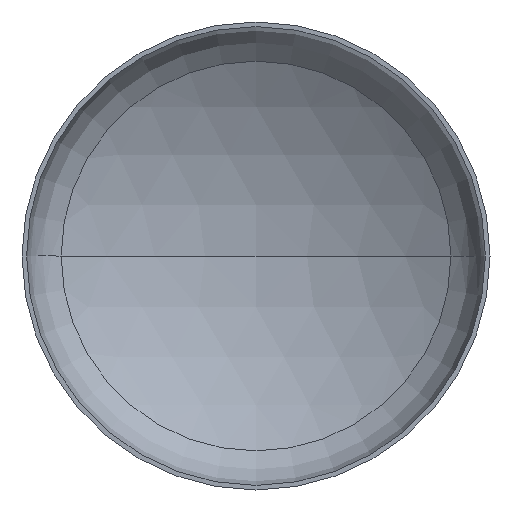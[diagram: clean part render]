
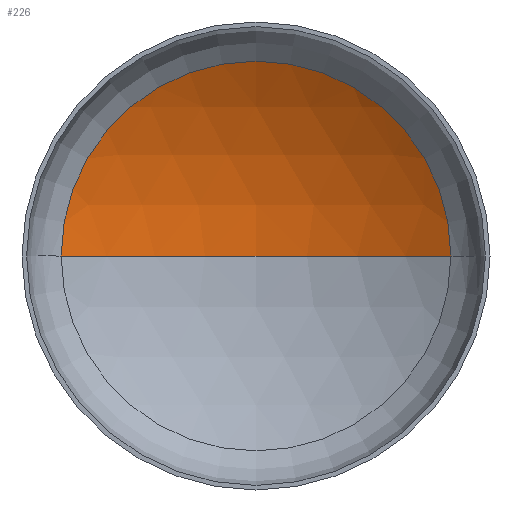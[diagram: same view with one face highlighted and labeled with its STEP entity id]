
A CAD part, front view. The second image highlights one B-rep face of the part: STEP entity #226.
In plain terms, the highlighted spherical face has radius 5200 mm.
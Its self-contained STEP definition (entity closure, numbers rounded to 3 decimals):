
#13 = CARTESIAN_POINT ( 'NONE',  ( 0., -3466.28, 0. ) ) ;
#25 = AXIS2_PLACEMENT_3D ( 'NONE', #13, #155, #215 ) ;
#40 = CARTESIAN_POINT ( 'NONE',  ( 0., 1733.72, 0. ) ) ;
#51 = AXIS2_PLACEMENT_3D ( 'NONE', #209, #204, #207 ) ;
#55 = AXIS2_PLACEMENT_3D ( 'NONE', #179, #181, #287 ) ;
#56 = AXIS2_PLACEMENT_3D ( 'NONE', #295, #284, #283 ) ;
#74 = ORIENTED_EDGE ( 'NONE', *, *, #102, .F. ) ;
#84 = VERTEX_POINT ( 'NONE', #40 ) ;
#98 = EDGE_CURVE ( 'NONE', #152, #397, #368, .T. ) ;
#99 = EDGE_CURVE ( 'NONE', #84, #152, #251, .T. ) ;
#102 = EDGE_CURVE ( 'NONE', #84, #397, #178, .T. ) ;
#119 = ORIENTED_EDGE ( 'NONE', *, *, #98, .T. ) ;
#147 = EDGE_LOOP ( 'NONE', ( #74, #341, #119 ) ) ;
#152 = VERTEX_POINT ( 'NONE', #398 ) ;
#155 = DIRECTION ( 'NONE',  ( 0., 0., -1. ) ) ;
#165 = CARTESIAN_POINT ( 'NONE',  ( -2706.476, 973.876, 0. ) ) ;
#178 = CIRCLE ( 'NONE', #51, 5200. ) ;
#179 = CARTESIAN_POINT ( 'NONE',  ( 0., -3466.28, 0. ) ) ;
#181 = DIRECTION ( 'NONE',  ( 0., 0., -1. ) ) ;
#204 = DIRECTION ( 'NONE',  ( 0., 0., 1. ) ) ;
#207 = DIRECTION ( 'NONE',  ( 1., 0., 0. ) ) ;
#209 = CARTESIAN_POINT ( 'NONE',  ( 0., -3466.28, 0. ) ) ;
#215 = DIRECTION ( 'NONE',  ( -1., 0., 0. ) ) ;
#226 = ADVANCED_FACE ( 'NONE', ( #231 ), #407, .F. ) ;
#231 = FACE_OUTER_BOUND ( 'NONE', #147, .T. ) ;
#251 = CIRCLE ( 'NONE', #55, 5200. ) ;
#283 = DIRECTION ( 'NONE',  ( 1., 0., 0. ) ) ;
#284 = DIRECTION ( 'NONE',  ( 0., -1., 0. ) ) ;
#287 = DIRECTION ( 'NONE',  ( -1., 0., 0. ) ) ;
#295 = CARTESIAN_POINT ( 'NONE',  ( 0., 973.876, 0. ) ) ;
#341 = ORIENTED_EDGE ( 'NONE', *, *, #99, .T. ) ;
#368 = CIRCLE ( 'NONE', #56, 2706.476 ) ;
#397 = VERTEX_POINT ( 'NONE', #165 ) ;
#398 = CARTESIAN_POINT ( 'NONE',  ( 2706.476, 973.876, 0. ) ) ;
#407 = SPHERICAL_SURFACE ( 'NONE', #25, 5200. ) ;
